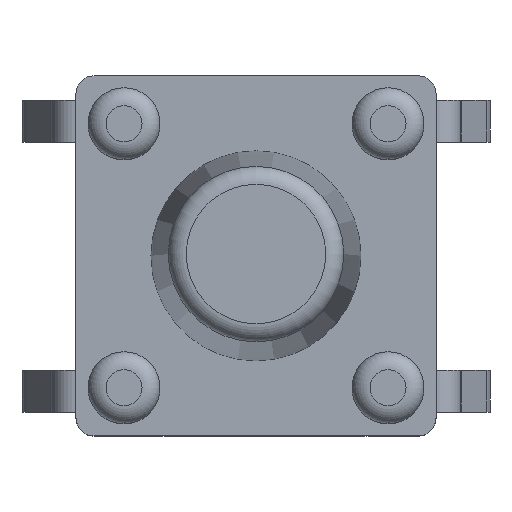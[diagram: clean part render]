
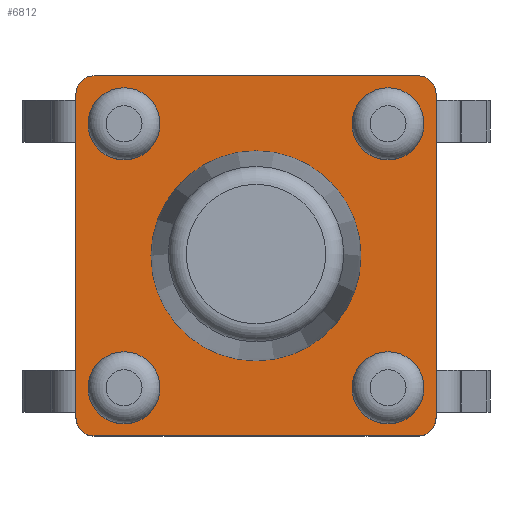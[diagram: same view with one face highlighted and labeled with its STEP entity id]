
A CAD part, top view. The second image highlights one B-rep face of the part: STEP entity #6812.
In plain terms, the highlighted planar face has unit normal (0, 0, 1).
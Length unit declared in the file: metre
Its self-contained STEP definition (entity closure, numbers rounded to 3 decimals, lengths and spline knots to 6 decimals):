
#153=CIRCLE('',#8084,0.0003);
#154=CIRCLE('',#8087,0.0003);
#155=CIRCLE('',#8088,0.0003);
#156=CIRCLE('',#8089,0.0003);
#157=CIRCLE('',#8090,0.00175);
#158=CIRCLE('',#8091,0.0006);
#159=CIRCLE('',#8092,0.0006);
#160=CIRCLE('',#8093,0.0006);
#161=CIRCLE('',#8094,0.0006);
#905=LINE('',#12463,#1586);
#906=LINE('',#12467,#1587);
#907=LINE('',#12471,#1588);
#908=LINE('',#12475,#1589);
#1586=VECTOR('',#9605,1.);
#1587=VECTOR('',#9608,1.);
#1588=VECTOR('',#9611,1.);
#1589=VECTOR('',#9614,1.);
#3300=ORIENTED_EDGE('',*,*,#4525,.T.);
#3301=ORIENTED_EDGE('',*,*,#4526,.T.);
#3302=ORIENTED_EDGE('',*,*,#4527,.T.);
#3303=ORIENTED_EDGE('',*,*,#4528,.T.);
#3304=ORIENTED_EDGE('',*,*,#4529,.T.);
#3305=ORIENTED_EDGE('',*,*,#4530,.T.);
#3306=ORIENTED_EDGE('',*,*,#4531,.T.);
#3307=ORIENTED_EDGE('',*,*,#4519,.T.);
#3308=ORIENTED_EDGE('',*,*,#4532,.F.);
#3309=ORIENTED_EDGE('',*,*,#4533,.F.);
#3310=ORIENTED_EDGE('',*,*,#4534,.F.);
#3311=ORIENTED_EDGE('',*,*,#4535,.F.);
#3312=ORIENTED_EDGE('',*,*,#4536,.F.);
#4519=EDGE_CURVE('',#5180,#5179,#153,.T.);
#4525=EDGE_CURVE('',#5179,#5181,#905,.T.);
#4526=EDGE_CURVE('',#5181,#5182,#154,.T.);
#4527=EDGE_CURVE('',#5182,#5183,#906,.T.);
#4528=EDGE_CURVE('',#5183,#5184,#155,.T.);
#4529=EDGE_CURVE('',#5184,#5185,#907,.T.);
#4530=EDGE_CURVE('',#5185,#5186,#156,.T.);
#4531=EDGE_CURVE('',#5186,#5180,#908,.T.);
#4532=EDGE_CURVE('',#5187,#5187,#157,.T.);
#4533=EDGE_CURVE('',#5188,#5188,#158,.T.);
#4534=EDGE_CURVE('',#5189,#5189,#159,.T.);
#4535=EDGE_CURVE('',#5190,#5190,#160,.T.);
#4536=EDGE_CURVE('',#5191,#5191,#161,.T.);
#5179=VERTEX_POINT('',#12453);
#5180=VERTEX_POINT('',#12455);
#5181=VERTEX_POINT('',#12464);
#5182=VERTEX_POINT('',#12466);
#5183=VERTEX_POINT('',#12468);
#5184=VERTEX_POINT('',#12470);
#5185=VERTEX_POINT('',#12472);
#5186=VERTEX_POINT('',#12474);
#5187=VERTEX_POINT('',#12477);
#5188=VERTEX_POINT('',#12479);
#5189=VERTEX_POINT('',#12481);
#5190=VERTEX_POINT('',#12483);
#5191=VERTEX_POINT('',#12485);
#5673=EDGE_LOOP('',(#3300,#3301,#3302,#3303,#3304,#3305,#3306,#3307));
#5674=EDGE_LOOP('',(#3308));
#5675=EDGE_LOOP('',(#3309));
#5676=EDGE_LOOP('',(#3310));
#5677=EDGE_LOOP('',(#3311));
#5678=EDGE_LOOP('',(#3312));
#6068=FACE_BOUND('',#5673,.T.);
#6069=FACE_BOUND('',#5674,.T.);
#6070=FACE_BOUND('',#5675,.T.);
#6071=FACE_BOUND('',#5676,.T.);
#6072=FACE_BOUND('',#5677,.T.);
#6073=FACE_BOUND('',#5678,.T.);
#6327=PLANE('',#8086);
#6812=ADVANCED_FACE('',(#6068,#6069,#6070,#6071,#6072,#6073),#6327,.T.);
#8084=AXIS2_PLACEMENT_3D('',#12454,#9594,#9595);
#8086=AXIS2_PLACEMENT_3D('',#12462,#9603,#9604);
#8087=AXIS2_PLACEMENT_3D('',#12465,#9606,#9607);
#8088=AXIS2_PLACEMENT_3D('',#12469,#9609,#9610);
#8089=AXIS2_PLACEMENT_3D('',#12473,#9612,#9613);
#8090=AXIS2_PLACEMENT_3D('',#12476,#9615,#9616);
#8091=AXIS2_PLACEMENT_3D('',#12478,#9617,#9618);
#8092=AXIS2_PLACEMENT_3D('',#12480,#9619,#9620);
#8093=AXIS2_PLACEMENT_3D('',#12482,#9621,#9622);
#8094=AXIS2_PLACEMENT_3D('',#12484,#9623,#9624);
#9594=DIRECTION('',(0.,0.,1.));
#9595=DIRECTION('',(1.,0.,0.));
#9603=DIRECTION('',(0.,0.,1.));
#9604=DIRECTION('',(1.,0.,0.));
#9605=DIRECTION('',(1.,0.,0.));
#9606=DIRECTION('',(0.,0.,1.));
#9607=DIRECTION('',(1.,0.,0.));
#9608=DIRECTION('',(0.,1.,0.));
#9609=DIRECTION('',(0.,0.,1.));
#9610=DIRECTION('',(1.,0.,0.));
#9611=DIRECTION('',(-1.,0.,0.));
#9612=DIRECTION('',(0.,0.,1.));
#9613=DIRECTION('',(1.,0.,0.));
#9614=DIRECTION('',(0.,-1.,0.));
#9615=DIRECTION('',(0.,0.,1.));
#9616=DIRECTION('',(1.,0.,0.));
#9617=DIRECTION('',(0.,0.,1.));
#9618=DIRECTION('',(1.,0.,0.));
#9619=DIRECTION('',(0.,0.,1.));
#9620=DIRECTION('',(1.,0.,0.));
#9621=DIRECTION('',(0.,0.,1.));
#9622=DIRECTION('',(1.,0.,0.));
#9623=DIRECTION('',(0.,0.,1.));
#9624=DIRECTION('',(1.,0.,0.));
#12453=CARTESIAN_POINT('',(-0.096849,-0.058509,0.0127));
#12454=CARTESIAN_POINT('',(-0.096849,-0.058209,0.0127));
#12455=CARTESIAN_POINT('',(-0.097149,-0.058209,0.0127));
#12462=CARTESIAN_POINT('',(-0.094149,-0.055509,0.0127));
#12463=CARTESIAN_POINT('',(-0.097149,-0.058509,0.0127));
#12464=CARTESIAN_POINT('',(-0.091449,-0.058509,0.0127));
#12465=CARTESIAN_POINT('',(-0.091449,-0.058209,0.0127));
#12466=CARTESIAN_POINT('',(-0.091149,-0.058209,0.0127));
#12467=CARTESIAN_POINT('',(-0.091149,-0.052509,0.0127));
#12468=CARTESIAN_POINT('',(-0.091149,-0.052809,0.0127));
#12469=CARTESIAN_POINT('',(-0.091449,-0.052809,0.0127));
#12470=CARTESIAN_POINT('',(-0.091449,-0.052509,0.0127));
#12471=CARTESIAN_POINT('',(-0.097149,-0.052509,0.0127));
#12472=CARTESIAN_POINT('',(-0.096849,-0.052509,0.0127));
#12473=CARTESIAN_POINT('',(-0.096849,-0.052809,0.0127));
#12474=CARTESIAN_POINT('',(-0.097149,-0.052809,0.0127));
#12475=CARTESIAN_POINT('',(-0.097149,-0.052509,0.0127));
#12476=CARTESIAN_POINT('',(-0.094149,-0.055509,0.0127));
#12477=CARTESIAN_POINT('',(-0.092399,-0.055509,0.0127));
#12478=CARTESIAN_POINT('',(-0.096349,-0.053309,0.0127));
#12479=CARTESIAN_POINT('',(-0.095749,-0.053309,0.0127));
#12480=CARTESIAN_POINT('',(-0.091949,-0.053309,0.0127));
#12481=CARTESIAN_POINT('',(-0.091349,-0.053309,0.0127));
#12482=CARTESIAN_POINT('',(-0.091949,-0.057709,0.0127));
#12483=CARTESIAN_POINT('',(-0.091349,-0.057709,0.0127));
#12484=CARTESIAN_POINT('',(-0.096349,-0.057709,0.0127));
#12485=CARTESIAN_POINT('',(-0.095749,-0.057709,0.0127));
